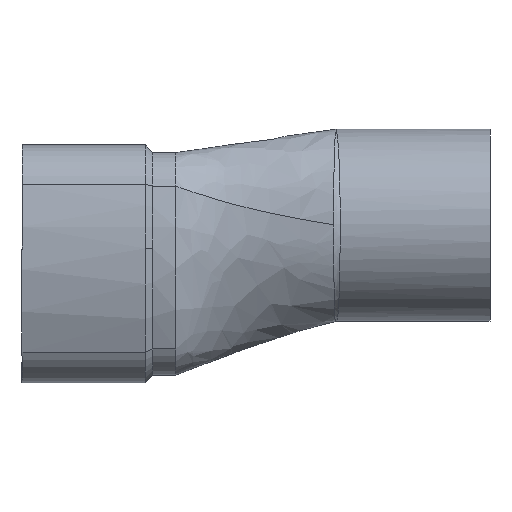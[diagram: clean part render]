
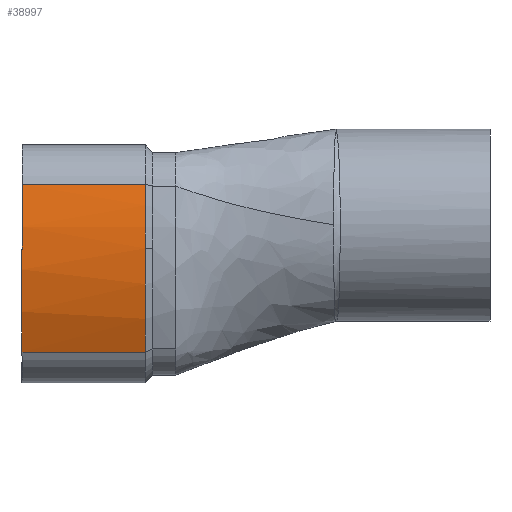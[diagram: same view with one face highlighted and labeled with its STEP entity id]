
A CAD part, left-side view. The second image highlights one B-rep face of the part: STEP entity #38997.
In plain terms, the highlighted cylindrical face has radius 64.1 mm (diameter 128.2 mm), a partial arc.
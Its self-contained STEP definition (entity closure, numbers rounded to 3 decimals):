
#73 = CARTESIAN_POINT ( 'NONE',  ( -1.872, -84.652, 197.948 ) ) ;
#106 = ORIENTED_EDGE ( 'NONE', *, *, #25997, .T. ) ;
#1532 = CIRCLE ( 'NONE', #11656, 64.1 ) ;
#2163 = EDGE_CURVE ( 'NONE', #2726, #16762, #1532, .T. ) ;
#2239 = CARTESIAN_POINT ( 'NONE',  ( -1.872, -84.652, 197.948 ) ) ;
#2726 = VERTEX_POINT ( 'NONE', #37792 ) ;
#3968 = CARTESIAN_POINT ( 'NONE',  ( -1.872, -84.652, 197.948 ) ) ;
#4290 = EDGE_LOOP ( 'NONE', ( #9951, #106, #19032, #11317, #34892 ) ) ;
#4327 = VECTOR ( 'NONE', #40287, 1000. ) ;
#4848 = VECTOR ( 'NONE', #20233, 1000. ) ;
#5433 = CARTESIAN_POINT ( 'NONE',  ( -60.009, -52.652, 170.95 ) ) ;
#6420 = DIRECTION ( 'NONE',  ( 0., 0., -1. ) ) ;
#7732 = VERTEX_POINT ( 'NONE', #5433 ) ;
#7833 = DIRECTION ( 'NONE',  ( 0., 0., -1. ) ) ;
#9816 = CARTESIAN_POINT ( 'NONE',  ( -63.763, -84.652, 214.632 ) ) ;
#9951 = ORIENTED_EDGE ( 'NONE', *, *, #43710, .T. ) ;
#10040 = DIRECTION ( 'NONE',  ( 0., -1., 0. ) ) ;
#11236 = DIRECTION ( 'NONE',  ( 0., -1., 0. ) ) ;
#11317 = ORIENTED_EDGE ( 'NONE', *, *, #43463, .F. ) ;
#11656 = AXIS2_PLACEMENT_3D ( 'NONE', #2239, #23064, #40755 ) ;
#16409 = AXIS2_PLACEMENT_3D ( 'NONE', #73, #10040, #6420 ) ;
#16762 = VERTEX_POINT ( 'NONE', #33692 ) ;
#17086 = EDGE_CURVE ( 'NONE', #26967, #7732, #33258, .T. ) ;
#18007 = DIRECTION ( 'NONE',  ( 0., 1., 0. ) ) ;
#19032 = ORIENTED_EDGE ( 'NONE', *, *, #17086, .F. ) ;
#20233 = DIRECTION ( 'NONE',  ( 0., 1., 0. ) ) ;
#21185 = DIRECTION ( 'NONE',  ( 0., 0., 1. ) ) ;
#23064 = DIRECTION ( 'NONE',  ( 0., -1., 0. ) ) ;
#24539 = CARTESIAN_POINT ( 'NONE',  ( -60.009, -84.652, 170.95 ) ) ;
#25997 = EDGE_CURVE ( 'NONE', #42129, #7732, #42334, .T. ) ;
#26967 = VERTEX_POINT ( 'NONE', #24539 ) ;
#28226 = CYLINDRICAL_SURFACE ( 'NONE', #36388, 64.1 ) ;
#33258 = LINE ( 'NONE', #36438, #4327 ) ;
#33692 = CARTESIAN_POINT ( 'NONE',  ( -65.972, -84.652, 197.948 ) ) ;
#34892 = ORIENTED_EDGE ( 'NONE', *, *, #2163, .F. ) ;
#35241 = FACE_OUTER_BOUND ( 'NONE', #4290, .T. ) ;
#36388 = AXIS2_PLACEMENT_3D ( 'NONE', #3968, #18007, #21185 ) ;
#36438 = CARTESIAN_POINT ( 'NONE',  ( -60.009, -84.652, 170.95 ) ) ;
#36796 = CARTESIAN_POINT ( 'NONE',  ( -63.763, -52.652, 214.632 ) ) ;
#37227 = AXIS2_PLACEMENT_3D ( 'NONE', #43179, #11236, #7833 ) ;
#37386 = CIRCLE ( 'NONE', #16409, 64.1 ) ;
#37792 = CARTESIAN_POINT ( 'NONE',  ( -63.763, -84.652, 214.632 ) ) ;
#38997 = ADVANCED_FACE ( 'NONE', ( #35241 ), #28226, .T. ) ;
#40287 = DIRECTION ( 'NONE',  ( 0., 1., 0. ) ) ;
#40755 = DIRECTION ( 'NONE',  ( 0., 0., -1. ) ) ;
#40871 = LINE ( 'NONE', #9816, #4848 ) ;
#42129 = VERTEX_POINT ( 'NONE', #36796 ) ;
#42334 = CIRCLE ( 'NONE', #37227, 64.1 ) ;
#43179 = CARTESIAN_POINT ( 'NONE',  ( -1.872, -52.652, 197.948 ) ) ;
#43463 = EDGE_CURVE ( 'NONE', #16762, #26967, #37386, .T. ) ;
#43710 = EDGE_CURVE ( 'NONE', #2726, #42129, #40871, .T. ) ;
